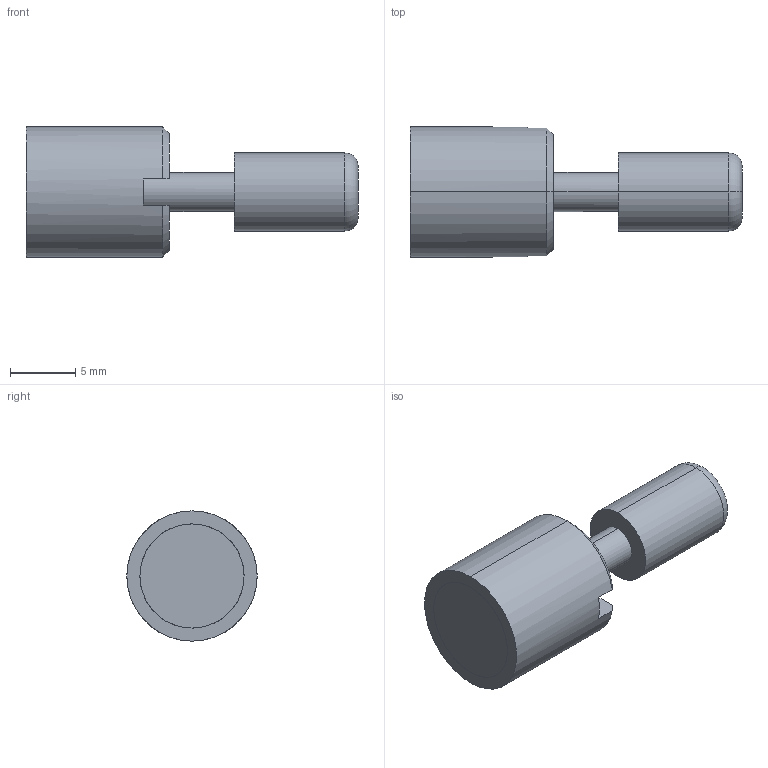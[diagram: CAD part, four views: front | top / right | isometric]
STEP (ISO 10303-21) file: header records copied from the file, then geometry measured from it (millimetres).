
FILE_DESCRIPTION(('CATIA V5 STEP Exchange'),'2;1');
FILE_NAME('C:\Users\Utente\Desktop\IO LAVORO\3D X SITO CF\X SITO\PLASTICA\CF-VPA\CF-VPA10.stp','2021-03-24T12:56:30+00:00',('none'),('none'),'CATIA Version 5 Release 20 GA (IN-10)','CATIA V5 STEP AP203','none');
FILE_SCHEMA(('CONFIG_CONTROL_DESIGN'));
Length unit declared in the file: millimetre
Products named in the file (1): CF-VPA10
Assembly tree (2 placements, depth 2):
  CF-VPA10
    #58
    #769
Bounding box: 25.5 x 10 x 10 mm (x, y, z)
Volume: 1097.3 mm3; surface area: 1076.6 mm2
Topology: 2 solids, 2 shells, 30 faces, 88 edges, 62 vertices
Faces by surface type: plane 12, cone 8, cylinder 8, torus 2
Entity records: 1149 total; most frequent: CARTESIAN_POINT 276, ORIENTED_EDGE 176, DIRECTION 144, EDGE_CURVE 88, AXIS2_PLACEMENT_3D 80, VERTEX_POINT 62, CIRCLE 46, EDGE_LOOP 32
